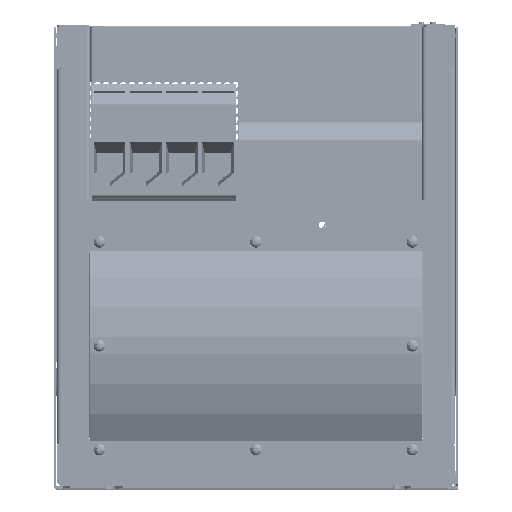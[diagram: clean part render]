
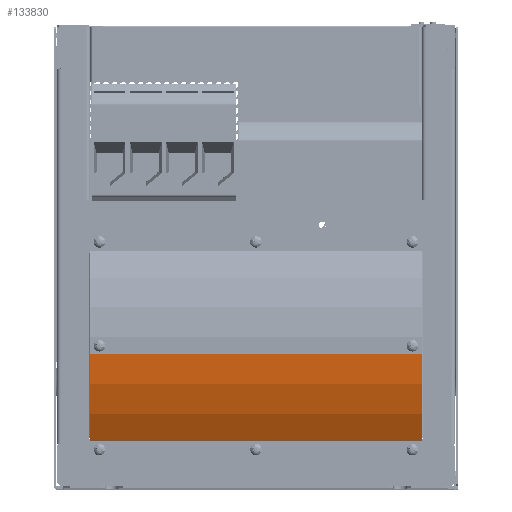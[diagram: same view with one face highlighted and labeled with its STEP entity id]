
A CAD part, top view. The second image highlights one B-rep face of the part: STEP entity #133830.
In plain terms, the highlighted cylindrical face has radius 129.33 mm (diameter 258.66 mm), a partial arc.
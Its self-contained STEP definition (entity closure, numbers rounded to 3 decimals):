
#120030=CYLINDRICAL_SURFACE('',#369193,129.33);
#123595=CIRCLE('',#369191,129.33);
#123596=CIRCLE('',#369192,129.33);
#133830=ADVANCED_FACE('',(#154354),#120030,.T.);
#154354=FACE_OUTER_BOUND('',#173009,.T.);
#173009=EDGE_LOOP('',(#232022,#232023,#232024,#232025));
#232022=ORIENTED_EDGE('',*,*,#303656,.T.);
#232023=ORIENTED_EDGE('',*,*,#303657,.F.);
#232024=ORIENTED_EDGE('',*,*,#303658,.F.);
#232025=ORIENTED_EDGE('',*,*,#303654,.T.);
#269764=VERTEX_POINT('',#542151);
#269765=VERTEX_POINT('',#542153);
#269766=VERTEX_POINT('',#542157);
#269767=VERTEX_POINT('',#542159);
#303654=EDGE_CURVE('',#269765,#269764,#328621,.T.);
#303656=EDGE_CURVE('',#269764,#269766,#123595,.T.);
#303657=EDGE_CURVE('',#269767,#269766,#328623,.T.);
#303658=EDGE_CURVE('',#269765,#269767,#123596,.T.);
#328621=LINE('',#542152,#351886);
#328623=LINE('',#542158,#351888);
#351886=VECTOR('',#405930,1.);
#351888=VECTOR('',#405936,1.);
#369191=AXIS2_PLACEMENT_3D('',#542156,#405934,#405935);
#369192=AXIS2_PLACEMENT_3D('',#542160,#405937,#405938);
#369193=AXIS2_PLACEMENT_3D('',#542161,#405939,#405940);
#405930=DIRECTION('',(-1.,0.,0.));
#405934=DIRECTION('',(1.,0.,0.));
#405935=DIRECTION('',(0.,0.,-1.));
#405936=DIRECTION('',(-1.,0.,0.));
#405937=DIRECTION('',(1.,0.,0.));
#405938=DIRECTION('',(0.,0.,-1.));
#405939=DIRECTION('',(-1.,0.,0.));
#405940=DIRECTION('',(0.,0.,1.));
#542151=CARTESIAN_POINT('',(-196.554,-50.496,559.));
#542152=CARTESIAN_POINT('',(33.446,-50.496,559.));
#542153=CARTESIAN_POINT('',(33.446,-50.496,559.));
#542156=CARTESIAN_POINT('',(-196.554,-44.724,429.799));
#542157=CARTESIAN_POINT('',(-196.554,-110.758,541.));
#542158=CARTESIAN_POINT('',(33.446,-110.758,541.));
#542159=CARTESIAN_POINT('',(33.446,-110.758,541.));
#542160=CARTESIAN_POINT('',(33.446,-44.724,429.799));
#542161=CARTESIAN_POINT('',(33.446,-44.724,429.799));
